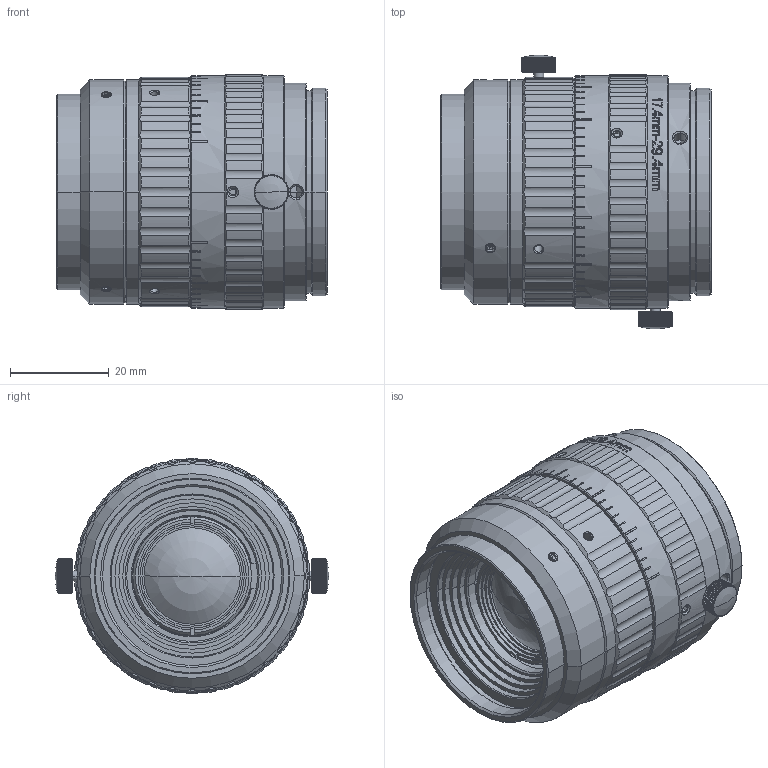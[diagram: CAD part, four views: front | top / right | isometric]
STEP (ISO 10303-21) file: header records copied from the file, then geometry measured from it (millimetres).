
FILE_DESCRIPTION((''),'2;1');
FILE_NAME('LS4010AMT04_ASM','2020-09-22T',('Administrator'),(''),'PRO/ENGINEER BY PARAMETRIC TECHNOLOGY CORPORATION, 2010370','PRO/ENGINEER BY PARAMETRIC TECHNOLOGY CORPORATION, 2010370','');
FILE_SCHEMA(('CONFIG_CONTROL_DESIGN'));
Length unit declared in the file: millimetre
Products named in the file (17): MSBR-67; MSBR-66; MSBR-65; MSBR-62; MSBR-61; MSBR-60; MSBR-56; MSBR-55; MSBR-54; MSBR-53; MSBR-52; MSBR-1; LS4010A-200_ASM_ASM_ASM; LS4010A_ASM; MT04; MT04-511; LS4010AMT04_ASM
Assembly tree (16 placements, depth 4):
  LS4010AMT04_ASM
    LS4010A_ASM
      LS4010A-200_ASM_ASM_ASM
        MSBR-67
        MSBR-66
        MSBR-65
        MSBR-62
        MSBR-61
        MSBR-60
        MSBR-56
        MSBR-55
        MSBR-54
        MSBR-53
        MSBR-52
        MSBR-1
    MT04
    MT04-511
Bounding box: 54.7 x 55.35 x 47.59 mm (x, y, z)
Volume: 51550.5 mm3; surface area: 42137.9 mm2
Topology: 14 solids, 19 shells, 2085 faces, 6055 edges, 4038 vertices
Faces by surface type: plane 872, cylinder 569, cone 495, bspline 130, sphere 12, extrusion 7
Entity records: 79664 total; most frequent: CARTESIAN_POINT 24958, ORIENTED_EDGE 12074, DIRECTION 10876, EDGE_CURVE 6037, AXIS2_PLACEMENT_3D 4144, VERTEX_POINT 4038, VECTOR 2588, LINE 2581
